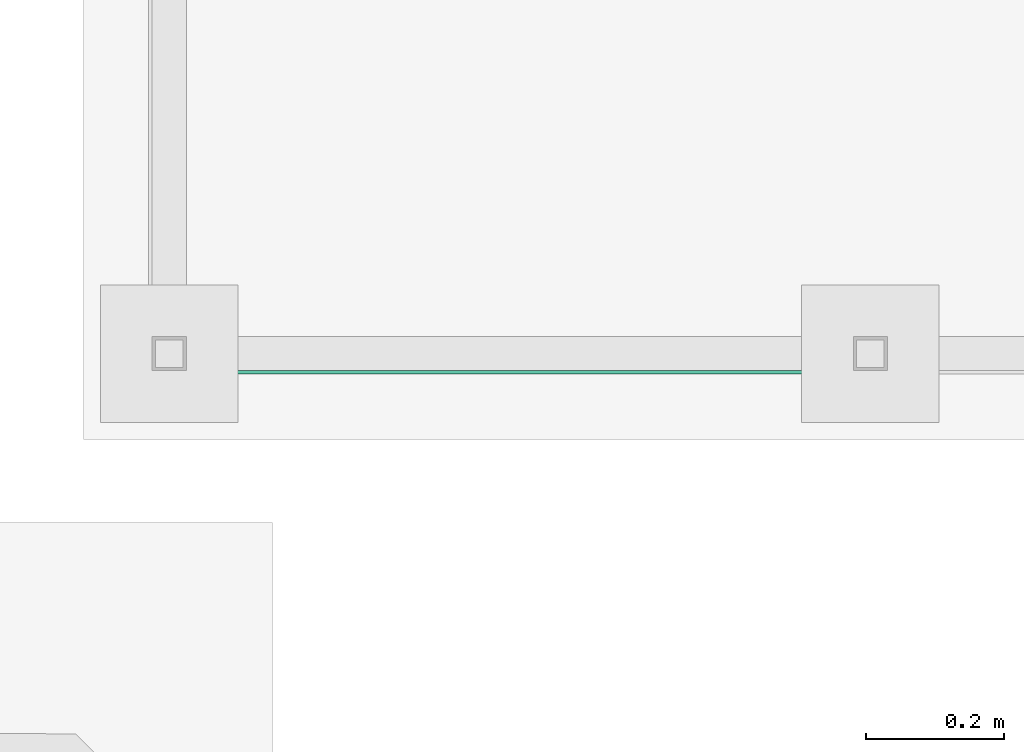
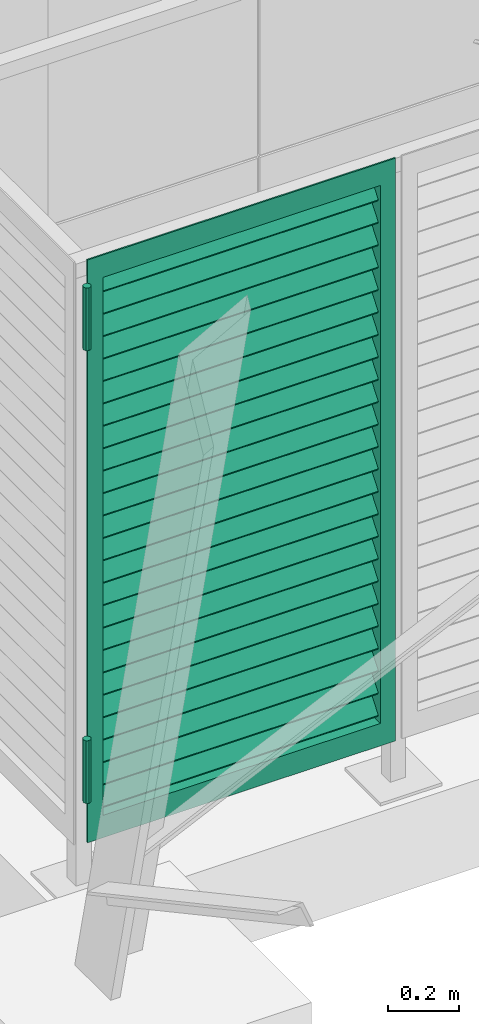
# One storey, part 174 of 418: 1 distribution flow element.
"""IFC2X3 building model written with IfcOpenShell, lengths in millimetres."""

from ifc_helpers import new_model, entity, si_unit, converted_unit, derived_unit, money_unit, direction, frame, origin_with_axes, place, context, subcontext, project, spatial, faceted_brep, source, transform, mapped, material, material_list, type_object, element, save


model = new_model("IFC2X3")

# Units and contexts
model_context = context("Model", 3, precision=0.01, world=origin_with_axes(), true_north=direction((0.0, 1.0)))
body_context = subcontext(model_context, "Body", "Model", "MODEL_VIEW")
ifc_project = project(units=[si_unit("LENGTHUNIT", "METRE", prefix="MILLI"), si_unit("AREAUNIT", "SQUARE_METRE"), si_unit("VOLUMEUNIT", "CUBIC_METRE"), converted_unit("PLANEANGLEUNIT", "DEGREE", entity("IfcPlaneAngleMeasure", 0.0174532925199), si_unit("PLANEANGLEUNIT", "RADIAN"), dimensions=[0, 0, 0, 0, 0, 0, 0]), si_unit("SOLIDANGLEUNIT", "STERADIAN"), money_unit("EUR"), converted_unit("TIMEUNIT", "Year", entity("IfcTimeMeasure", 31556926.0), si_unit("TIMEUNIT", "SECOND"), dimensions=[0, 0, 1, 0, 0, 0, 0]), si_unit("MASSUNIT", "GRAM", prefix="KILO"), si_unit("THERMODYNAMICTEMPERATUREUNIT", "DEGREE_CELSIUS"), si_unit("LUMINOUSINTENSITYUNIT", "LUMEN"), si_unit("ENERGYUNIT", "JOULE", prefix="MEGA"), derived_unit("THERMALCONDUCTANCEUNIT", [(si_unit("POWERUNIT", "WATT"), 1), (si_unit("LENGTHUNIT", "METRE"), -1), (si_unit("THERMODYNAMICTEMPERATUREUNIT", "KELVIN"), -1)]), derived_unit("SPECIFICHEATCAPACITYUNIT", [(si_unit("ENERGYUNIT", "JOULE"), 1), (si_unit("MASSUNIT", "GRAM", prefix="KILO"), -1), (si_unit("THERMODYNAMICTEMPERATUREUNIT", "KELVIN"), -1)]), derived_unit("MASSDENSITYUNIT", [(si_unit("MASSUNIT", "GRAM", prefix="KILO"), 1), (si_unit("VOLUMEUNIT", "CUBIC_METRE"), -1)])], contexts=[model_context])

# Site, building, storey
site_placement = place(None, origin_with_axes())
site = spatial("IfcSite", under=ifc_project, at=site_placement, Name="Paldiski mnt 245/1, Tallinn, Harjumaa", CompositionType="COMPLEX")
building_placement = place(site_placement, origin_with_axes())
building = spatial("IfcBuilding", under=site, at=building_placement, Name="RKAS Hoone üldnimetus (kasutust iseloomustav) -> IFC Project Manager -> SOLIBRI", CompositionType="ELEMENT")
storey_placement = place(building_placement, origin_with_axes())
storey = spatial("IfcBuildingStorey", under=building, at=storey_placement, Name="Esimene korrus", CompositionType="ELEMENT", Elevation=0.0)

# Distribution flow element
ifc_material_1 = material(Name="Teras")
ifc_material_2 = material(Name="ET-05_Teras")
ifc_material_list = material_list([ifc_material_1, ifc_material_2])
valve_type = type_object("IfcValveType", Name="Rest_1", PredefinedType="USERDEFINED")
shared_shape = source(origin_with_axes(), body_context, "Body", "Brep", [
    faceted_brep([(72.0, 25.0, 2000.0), (72.0, 25.0, 1923.07692308), (72.0, 25.0, 76.9230769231), (72.0, 25.0, 0.0), (72.0, 30.0, 0.0), (72.0, 30.0, 76.9230769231), (72.0, 30.0, 1923.07692308), (72.0, 30.0, 2000.0), (22.0, 25.0, 2000.0), (22.0, 25.0, 0.0), (22.0, 30.0, 0.0), (22.0, 30.0, 2000.0)], [[[0, 1, 2, 3, 4, 5, 6, 7]], [[3, 2, 1, 0, 8, 9]], [[10, 4, 3, 9]], [[7, 6, 5, 4, 10, 11]], [[8, 0, 7, 11]], [[8, 11, 10, 9]]]),
    faceted_brep([(972.0, 30.0, 0.0), (972.0, 25.0, 0.0), (72.0, 25.0, 0.0), (72.0, 30.0, 0.0), (972.0, 30.0, 76.9230769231), (972.0, 25.0, 76.9230769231), (72.0, 25.0, 76.9230769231), (72.0, 30.0, 76.9230769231)], [[[0, 1, 2, 3]], [[0, 4, 5, 1]], [[1, 5, 6, 2]], [[3, 2, 6, 7]], [[4, 0, 3, 7]], [[5, 4, 7, 6]]]),
    faceted_brep([(972.0, 30.0, 0.0), (972.0, 30.0, 76.9230769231), (972.0, 30.0, 1923.07692308), (972.0, 30.0, 2000.0), (1022.0, 30.0, 2000.0), (1022.0, 30.0, 0.0), (972.0, 25.0, 0.0), (972.0, 25.0, 76.9230769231), (972.0, 25.0, 1923.07692308), (972.0, 25.0, 2000.0), (1022.0, 25.0, 2000.0), (1022.0, 25.0, 0.0)], [[[0, 1, 2, 3, 4, 5]], [[6, 7, 8, 9, 3, 2, 1, 0]], [[4, 3, 9, 10]], [[10, 11, 5, 4]], [[11, 6, 0, 5]], [[9, 8, 7, 6, 11, 10]]]),
    faceted_brep([(977.0, 30.0, 76.9230769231), (972.0, 30.0, 76.9230769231), (972.0, 80.0, 76.9230769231), (977.0, 80.0, 76.9230769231), (977.0, 30.0, 1923.07692308), (972.0, 30.0, 1923.07692308), (972.0, 80.0, 1923.07692308), (977.0, 80.0, 1923.07692308)], [[[0, 1, 2, 3]], [[4, 5, 1, 0]], [[1, 5, 6, 2]], [[7, 3, 2, 6]], [[4, 0, 3, 7]], [[5, 4, 7, 6]]]),
    faceted_brep([(67.0, 30.0, 1923.07692308), (72.0, 30.0, 1923.07692308), (72.0, 80.0, 1923.07692308), (67.0, 80.0, 1923.07692308), (67.0, 30.0, 76.9230769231), (72.0, 30.0, 76.9230769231), (72.0, 80.0, 76.9230769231), (67.0, 80.0, 76.9230769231)], [[[0, 1, 2, 3]], [[4, 5, 1, 0]], [[1, 5, 6, 2]], [[7, 3, 2, 6]], [[4, 0, 3, 7]], [[5, 4, 7, 6]]]),
    faceted_brep([(972.0, 30.0, 1923.07692308), (972.0, 25.0, 1923.07692308), (72.0, 25.0, 1923.07692308), (72.0, 30.0, 1923.07692308), (972.0, 30.0, 2000.0), (972.0, 25.0, 2000.0), (72.0, 25.0, 2000.0), (72.0, 30.0, 2000.0)], [[[0, 1, 2, 3]], [[0, 4, 5, 1]], [[1, 5, 6, 2]], [[3, 2, 6, 7]], [[4, 0, 3, 7]], [[5, 4, 7, 6]]]),
    faceted_brep([(67.0, 30.0, 69.2307692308), (977.0, 30.0, 69.2307692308), (977.0, 30.0, 76.9230769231), (67.0, 30.0, 76.9230769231), (67.0, 80.0, 69.2307692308), (977.0, 80.0, 69.2307692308), (977.0, 80.0, 76.9230769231), (67.0, 80.0, 76.9230769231)], [[[0, 1, 2, 3]], [[0, 4, 5, 1]], [[1, 5, 6, 2]], [[3, 2, 6, 7]], [[4, 0, 3, 7]], [[5, 4, 7, 6]]]),
    faceted_brep([(67.0, 30.0, 1923.07692308), (977.0, 30.0, 1923.07692308), (977.0, 30.0, 1930.76923077), (67.0, 30.0, 1930.76923077), (67.0, 80.0, 1923.07692308), (977.0, 80.0, 1923.07692308), (977.0, 80.0, 1930.76923077), (67.0, 80.0, 1930.76923077)], [[[0, 1, 2, 3]], [[0, 4, 5, 1]], [[1, 5, 6, 2]], [[3, 2, 6, 7]], [[4, 0, 3, 7]], [[5, 4, 7, 6]]]),
    faceted_brep([(972.0, 77.3650491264, 141.906873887), (972.0, 39.0628269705, 92.4616731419), (72.0, 39.0628269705, 92.4616731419), (72.0, 77.3650491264, 141.906873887), (972.0, 74.151111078, 147.799523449), (972.0, 35.848888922, 98.3543227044), (72.0, 35.848888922, 98.3543227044), (72.0, 74.151111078, 147.799523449)], [[[0, 1, 2, 3]], [[0, 4, 5, 1]], [[1, 5, 6, 2]], [[3, 2, 6, 7]], [[4, 0, 3, 7]], [[5, 4, 7, 6]]]),
    faceted_brep([(972.0, 77.3650491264, 218.82995081), (972.0, 39.0628269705, 169.384750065), (72.0, 39.0628269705, 169.384750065), (72.0, 77.3650491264, 218.82995081), (972.0, 74.151111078, 224.722600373), (972.0, 35.848888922, 175.277399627), (72.0, 35.848888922, 175.277399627), (72.0, 74.151111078, 224.722600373)], [[[0, 1, 2, 3]], [[0, 4, 5, 1]], [[1, 5, 6, 2]], [[3, 2, 6, 7]], [[4, 0, 3, 7]], [[5, 4, 7, 6]]]),
    faceted_brep([(972.0, 77.3650491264, 295.753027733), (972.0, 39.0628269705, 246.307826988), (72.0, 39.0628269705, 246.307826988), (72.0, 77.3650491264, 295.753027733), (972.0, 74.151111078, 301.645677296), (972.0, 35.848888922, 252.200476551), (72.0, 35.848888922, 252.200476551), (72.0, 74.151111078, 301.645677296)], [[[0, 1, 2, 3]], [[0, 4, 5, 1]], [[1, 5, 6, 2]], [[3, 2, 6, 7]], [[4, 0, 3, 7]], [[5, 4, 7, 6]]]),
    faceted_brep([(972.0, 77.3650491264, 372.676104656), (972.0, 39.0628269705, 323.230903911), (72.0, 39.0628269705, 323.230903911), (72.0, 77.3650491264, 372.676104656), (972.0, 74.151111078, 378.568754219), (972.0, 35.848888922, 329.123553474), (72.0, 35.848888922, 329.123553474), (72.0, 74.151111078, 378.568754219)], [[[0, 1, 2, 3]], [[0, 4, 5, 1]], [[1, 5, 6, 2]], [[3, 2, 6, 7]], [[4, 0, 3, 7]], [[5, 4, 7, 6]]]),
    faceted_brep([(972.0, 77.3650491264, 449.599181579), (972.0, 39.0628269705, 400.153980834), (72.0, 39.0628269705, 400.153980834), (72.0, 77.3650491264, 449.599181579), (972.0, 74.151111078, 455.491831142), (972.0, 35.848888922, 406.046630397), (72.0, 35.848888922, 406.046630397), (72.0, 74.151111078, 455.491831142)], [[[0, 1, 2, 3]], [[0, 4, 5, 1]], [[1, 5, 6, 2]], [[3, 2, 6, 7]], [[4, 0, 3, 7]], [[5, 4, 7, 6]]]),
    faceted_brep([(972.0, 77.3650491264, 526.522258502), (972.0, 39.0628269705, 477.077057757), (72.0, 39.0628269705, 477.077057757), (72.0, 77.3650491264, 526.522258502), (972.0, 74.151111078, 532.414908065), (972.0, 35.848888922, 482.96970732), (72.0, 35.848888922, 482.96970732), (72.0, 74.151111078, 532.414908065)], [[[0, 1, 2, 3]], [[0, 4, 5, 1]], [[1, 5, 6, 2]], [[3, 2, 6, 7]], [[4, 0, 3, 7]], [[5, 4, 7, 6]]]),
    faceted_brep([(972.0, 77.3650491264, 603.445335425), (972.0, 39.0628269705, 554.00013468), (72.0, 39.0628269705, 554.00013468), (72.0, 77.3650491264, 603.445335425), (972.0, 74.151111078, 609.337984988), (972.0, 35.848888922, 559.892784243), (72.0, 35.848888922, 559.892784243), (72.0, 74.151111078, 609.337984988)], [[[0, 1, 2, 3]], [[0, 4, 5, 1]], [[1, 5, 6, 2]], [[3, 2, 6, 7]], [[4, 0, 3, 7]], [[5, 4, 7, 6]]]),
    faceted_brep([(972.0, 77.3650491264, 680.368412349), (972.0, 39.0628269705, 630.923211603), (72.0, 39.0628269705, 630.923211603), (72.0, 77.3650491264, 680.368412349), (972.0, 74.151111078, 686.261061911), (972.0, 35.848888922, 636.815861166), (72.0, 35.848888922, 636.815861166), (72.0, 74.151111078, 686.261061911)], [[[0, 1, 2, 3]], [[0, 4, 5, 1]], [[1, 5, 6, 2]], [[3, 2, 6, 7]], [[4, 0, 3, 7]], [[5, 4, 7, 6]]]),
    faceted_brep([(972.0, 77.3650491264, 757.291489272), (972.0, 39.0628269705, 707.846288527), (72.0, 39.0628269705, 707.846288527), (72.0, 77.3650491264, 757.291489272), (972.0, 74.151111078, 763.184138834), (972.0, 35.848888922, 713.738938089), (72.0, 35.848888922, 713.738938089), (72.0, 74.151111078, 763.184138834)], [[[0, 1, 2, 3]], [[0, 4, 5, 1]], [[1, 5, 6, 2]], [[3, 2, 6, 7]], [[4, 0, 3, 7]], [[5, 4, 7, 6]]]),
    faceted_brep([(972.0, 77.3650491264, 834.214566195), (972.0, 39.0628269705, 784.76936545), (72.0, 39.0628269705, 784.76936545), (72.0, 77.3650491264, 834.214566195), (972.0, 74.151111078, 840.107215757), (972.0, 35.848888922, 790.662015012), (72.0, 35.848888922, 790.662015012), (72.0, 74.151111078, 840.107215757)], [[[0, 1, 2, 3]], [[0, 4, 5, 1]], [[1, 5, 6, 2]], [[3, 2, 6, 7]], [[4, 0, 3, 7]], [[5, 4, 7, 6]]]),
    faceted_brep([(972.0, 77.3650491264, 911.137643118), (972.0, 39.0628269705, 861.692442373), (72.0, 39.0628269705, 861.692442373), (72.0, 77.3650491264, 911.137643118), (972.0, 74.151111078, 917.03029268), (972.0, 35.848888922, 867.585091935), (72.0, 35.848888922, 867.585091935), (72.0, 74.151111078, 917.03029268)], [[[0, 1, 2, 3]], [[0, 4, 5, 1]], [[1, 5, 6, 2]], [[3, 2, 6, 7]], [[4, 0, 3, 7]], [[5, 4, 7, 6]]]),
    faceted_brep([(972.0, 77.3650491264, 988.060720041), (972.0, 39.0628269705, 938.615519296), (72.0, 39.0628269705, 938.615519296), (72.0, 77.3650491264, 988.060720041), (972.0, 74.151111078, 993.953369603), (972.0, 35.848888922, 944.508168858), (72.0, 35.848888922, 944.508168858), (72.0, 74.151111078, 993.953369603)], [[[0, 1, 2, 3]], [[0, 4, 5, 1]], [[1, 5, 6, 2]], [[3, 2, 6, 7]], [[4, 0, 3, 7]], [[5, 4, 7, 6]]]),
    faceted_brep([(972.0, 77.3650491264, 1064.98379696), (972.0, 39.0628269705, 1015.53859622), (72.0, 39.0628269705, 1015.53859622), (72.0, 77.3650491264, 1064.98379696), (972.0, 74.151111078, 1070.87644653), (972.0, 35.848888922, 1021.43124578), (72.0, 35.848888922, 1021.43124578), (72.0, 74.151111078, 1070.87644653)], [[[0, 1, 2, 3]], [[0, 4, 5, 1]], [[1, 5, 6, 2]], [[3, 2, 6, 7]], [[4, 0, 3, 7]], [[5, 4, 7, 6]]]),
    faceted_brep([(972.0, 77.3650491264, 1141.90687389), (972.0, 39.0628269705, 1092.46167314), (72.0, 39.0628269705, 1092.46167314), (72.0, 77.3650491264, 1141.90687389), (972.0, 74.151111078, 1147.79952345), (972.0, 35.848888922, 1098.3543227), (72.0, 35.848888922, 1098.3543227), (72.0, 74.151111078, 1147.79952345)], [[[0, 1, 2, 3]], [[0, 4, 5, 1]], [[1, 5, 6, 2]], [[3, 2, 6, 7]], [[4, 0, 3, 7]], [[5, 4, 7, 6]]]),
    faceted_brep([(972.0, 77.3650491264, 1218.82995081), (972.0, 39.0628269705, 1169.38475006), (72.0, 39.0628269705, 1169.38475006), (72.0, 77.3650491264, 1218.82995081), (972.0, 74.151111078, 1224.72260037), (972.0, 35.848888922, 1175.27739963), (72.0, 35.848888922, 1175.27739963), (72.0, 74.151111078, 1224.72260037)], [[[0, 1, 2, 3]], [[0, 4, 5, 1]], [[1, 5, 6, 2]], [[3, 2, 6, 7]], [[4, 0, 3, 7]], [[5, 4, 7, 6]]]),
    faceted_brep([(972.0, 77.3650491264, 1295.75302773), (972.0, 39.0628269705, 1246.30782699), (72.0, 39.0628269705, 1246.30782699), (72.0, 77.3650491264, 1295.75302773), (972.0, 74.151111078, 1301.6456773), (972.0, 35.848888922, 1252.20047655), (72.0, 35.848888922, 1252.20047655), (72.0, 74.151111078, 1301.6456773)], [[[0, 1, 2, 3]], [[0, 4, 5, 1]], [[1, 5, 6, 2]], [[3, 2, 6, 7]], [[4, 0, 3, 7]], [[5, 4, 7, 6]]]),
    faceted_brep([(972.0, 77.3650491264, 1372.67610466), (972.0, 39.0628269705, 1323.23090391), (72.0, 39.0628269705, 1323.23090391), (72.0, 77.3650491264, 1372.67610466), (972.0, 74.151111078, 1378.56875422), (972.0, 35.848888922, 1329.12355347), (72.0, 35.848888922, 1329.12355347), (72.0, 74.151111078, 1378.56875422)], [[[0, 1, 2, 3]], [[0, 4, 5, 1]], [[1, 5, 6, 2]], [[3, 2, 6, 7]], [[4, 0, 3, 7]], [[5, 4, 7, 6]]]),
    faceted_brep([(972.0, 77.3650491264, 1449.59918158), (972.0, 39.0628269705, 1400.15398083), (72.0, 39.0628269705, 1400.15398083), (72.0, 77.3650491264, 1449.59918158), (972.0, 74.151111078, 1455.49183114), (972.0, 35.848888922, 1406.0466304), (72.0, 35.848888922, 1406.0466304), (72.0, 74.151111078, 1455.49183114)], [[[0, 1, 2, 3]], [[0, 4, 5, 1]], [[1, 5, 6, 2]], [[3, 2, 6, 7]], [[4, 0, 3, 7]], [[5, 4, 7, 6]]]),
    faceted_brep([(972.0, 77.3650491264, 1526.5222585), (972.0, 39.0628269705, 1477.07705776), (72.0, 39.0628269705, 1477.07705776), (72.0, 77.3650491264, 1526.5222585), (972.0, 74.151111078, 1532.41490806), (972.0, 35.848888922, 1482.96970732), (72.0, 35.848888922, 1482.96970732), (72.0, 74.151111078, 1532.41490806)], [[[0, 1, 2, 3]], [[0, 4, 5, 1]], [[1, 5, 6, 2]], [[3, 2, 6, 7]], [[4, 0, 3, 7]], [[5, 4, 7, 6]]]),
    faceted_brep([(972.0, 77.3650491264, 1603.44533543), (972.0, 39.0628269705, 1554.00013468), (72.0, 39.0628269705, 1554.00013468), (72.0, 77.3650491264, 1603.44533543), (972.0, 74.151111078, 1609.33798499), (972.0, 35.848888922, 1559.89278424), (72.0, 35.848888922, 1559.89278424), (72.0, 74.151111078, 1609.33798499)], [[[0, 1, 2, 3]], [[0, 4, 5, 1]], [[1, 5, 6, 2]], [[3, 2, 6, 7]], [[4, 0, 3, 7]], [[5, 4, 7, 6]]]),
    faceted_brep([(972.0, 77.3650491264, 1680.36841235), (972.0, 39.0628269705, 1630.9232116), (72.0, 39.0628269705, 1630.9232116), (72.0, 77.3650491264, 1680.36841235), (972.0, 74.151111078, 1686.26106191), (972.0, 35.848888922, 1636.81586117), (72.0, 35.848888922, 1636.81586117), (72.0, 74.151111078, 1686.26106191)], [[[0, 1, 2, 3]], [[0, 4, 5, 1]], [[1, 5, 6, 2]], [[3, 2, 6, 7]], [[4, 0, 3, 7]], [[5, 4, 7, 6]]]),
    faceted_brep([(972.0, 77.3650491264, 1757.29148927), (972.0, 39.0628269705, 1707.84628853), (72.0, 39.0628269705, 1707.84628853), (72.0, 77.3650491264, 1757.29148927), (972.0, 74.151111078, 1763.18413883), (972.0, 35.848888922, 1713.73893809), (72.0, 35.848888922, 1713.73893809), (72.0, 74.151111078, 1763.18413883)], [[[0, 1, 2, 3]], [[0, 4, 5, 1]], [[1, 5, 6, 2]], [[3, 2, 6, 7]], [[4, 0, 3, 7]], [[5, 4, 7, 6]]]),
    faceted_brep([(972.0, 77.3650491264, 1834.21456619), (972.0, 39.0628269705, 1784.76936545), (72.0, 39.0628269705, 1784.76936545), (72.0, 77.3650491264, 1834.21456619), (972.0, 74.151111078, 1840.10721576), (972.0, 35.848888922, 1790.66201501), (72.0, 35.848888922, 1790.66201501), (72.0, 74.151111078, 1840.10721576)], [[[0, 1, 2, 3]], [[0, 4, 5, 1]], [[1, 5, 6, 2]], [[3, 2, 6, 7]], [[4, 0, 3, 7]], [[5, 4, 7, 6]]]),
    faceted_brep([(972.0, 77.3650491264, 1911.13764312), (972.0, 39.0628269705, 1861.69244237), (72.0, 39.0628269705, 1861.69244237), (72.0, 77.3650491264, 1911.13764312), (972.0, 74.151111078, 1917.03029268), (972.0, 35.848888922, 1867.58509194), (72.0, 35.848888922, 1867.58509194), (72.0, 74.151111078, 1917.03029268)], [[[0, 1, 2, 3]], [[0, 4, 5, 1]], [[1, 5, 6, 2]], [[3, 2, 6, 7]], [[4, 0, 3, 7]], [[5, 4, 7, 6]]]),
    faceted_brep([(0.0, 12.5, 153.846153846), (3.66116523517, 3.66116523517, 153.846153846), (3.66116523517, 3.66116523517, 369.230769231), (0.0, 12.5, 369.230769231), (3.66116523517, 21.3388347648, 153.846153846), (12.5, 25.0, 153.846153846), (21.3388347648, 21.3388347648, 153.846153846), (25.0, 12.5, 153.846153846), (21.3388347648, 3.66116523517, 153.846153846), (12.5, 0.0, 153.846153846), (12.5, 0.0, 369.230769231), (21.3388347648, 3.66116523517, 369.230769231), (25.0, 12.5, 369.230769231), (21.3388347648, 21.3388347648, 369.230769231), (12.5, 25.0, 369.230769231), (3.66116523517, 21.3388347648, 369.230769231)], [[[0, 1, 2, 3]], [[0, 4, 5, 6, 7, 8, 9, 1]], [[1, 9, 10, 2]], [[3, 2, 10, 11, 12, 13, 14, 15]], [[4, 0, 3, 15]], [[5, 4, 15, 14]], [[6, 5, 14, 13]], [[7, 6, 13, 12]], [[8, 7, 12, 11]], [[9, 8, 11, 10]]]),
    faceted_brep([(0.0, 12.5, 1707.69230769), (3.66116523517, 3.66116523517, 1707.69230769), (3.66116523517, 3.66116523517, 1923.07692308), (0.0, 12.5, 1923.07692308), (3.66116523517, 21.3388347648, 1707.69230769), (12.5, 25.0, 1707.69230769), (21.3388347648, 21.3388347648, 1707.69230769), (25.0, 12.5, 1707.69230769), (21.3388347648, 3.66116523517, 1707.69230769), (12.5, 0.0, 1707.69230769), (12.5, 0.0, 1923.07692308), (21.3388347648, 3.66116523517, 1923.07692308), (25.0, 12.5, 1923.07692308), (21.3388347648, 21.3388347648, 1923.07692308), (12.5, 25.0, 1923.07692308), (3.66116523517, 21.3388347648, 1923.07692308)], [[[0, 1, 2, 3]], [[0, 4, 5, 6, 7, 8, 9, 1]], [[1, 9, 10, 2]], [[3, 2, 10, 11, 12, 13, 14, 15]], [[4, 0, 3, 15]], [[5, 4, 15, 14]], [[6, 5, 14, 13]], [[7, 6, 13, 12]], [[8, 7, 12, 11]], [[9, 8, 11, 10]]]),
])
distribution_flow_element_placement = place(storey_placement, frame((-55802.0098605, -1585.71022117, 0.0), z_axis=(0.0, 0.0, 1.0), x_axis=(1.0, 0.0, 0.0)))
element("IfcDistributionFlowElement", 1, at=distribution_flow_element_placement, inside=storey, type_object=valve_type, material=ifc_material_list, Name="Trapp", ObjectType="Distribution Flow Element", context=body_context, shape_type="MappedRepresentation", body=[
    mapped(shared_shape, transform((0.0, 0.0, 0.0))),
])

save(model, "model.ifc")
